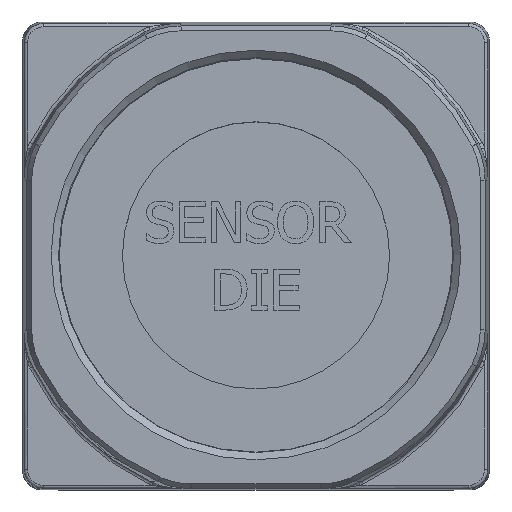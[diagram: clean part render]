
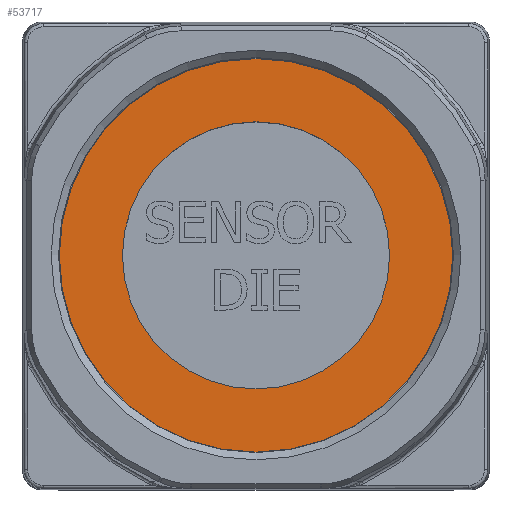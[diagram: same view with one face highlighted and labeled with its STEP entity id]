
A CAD part, top view. The second image highlights one B-rep face of the part: STEP entity #53717.
In plain terms, the highlighted planar face has unit normal (0, 0, 1).
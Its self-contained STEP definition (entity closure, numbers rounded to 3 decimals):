
#12975=FACE_BOUND('',#19116,.T.);
#16150=FACE_OUTER_BOUND('',#19115,.T.);
#19115=EDGE_LOOP('',(#42484));
#19116=EDGE_LOOP('',(#42485));
#21356=CIRCLE('',#56421,12.225);
#21852=CIRCLE('',#57519,8.3);
#23668=VERTEX_POINT('',#141240);
#24759=VERTEX_POINT('',#146880);
#29566=EDGE_CURVE('',#23668,#23668,#21356,.T.);
#31207=EDGE_CURVE('',#24759,#24759,#21852,.T.);
#42484=ORIENTED_EDGE('',*,*,#29566,.F.);
#42485=ORIENTED_EDGE('',*,*,#31207,.T.);
#51327=PLANE('',#57543);
#53717=ADVANCED_FACE('',(#16150,#12975),#51327,.T.);
#56421=AXIS2_PLACEMENT_3D('',#141241,#62181,#62182);
#57519=AXIS2_PLACEMENT_3D('',#146881,#65175,#65176);
#57543=AXIS2_PLACEMENT_3D('',#147005,#65233,#65234);
#62181=DIRECTION('center_axis',(0.,0.,
-1.));
#62182=DIRECTION('ref_axis',(0.,1.,0.));
#65175=DIRECTION('center_axis',(0.,0.,
-1.));
#65176=DIRECTION('ref_axis',(1.,0.,0.));
#65233=DIRECTION('center_axis',(0.,0.,
1.));
#65234=DIRECTION('ref_axis',(-1.,0.,0.));
#141240=CARTESIAN_POINT('',(0.,-12.225,0.));
#141241=CARTESIAN_POINT('Origin',(0.,0.,
0.));
#146880=CARTESIAN_POINT('',(-8.3,0.,0.));
#146881=CARTESIAN_POINT('Origin',(0.,0.,
0.));
#147005=CARTESIAN_POINT('Origin',(0.,-0.1,
0.));
